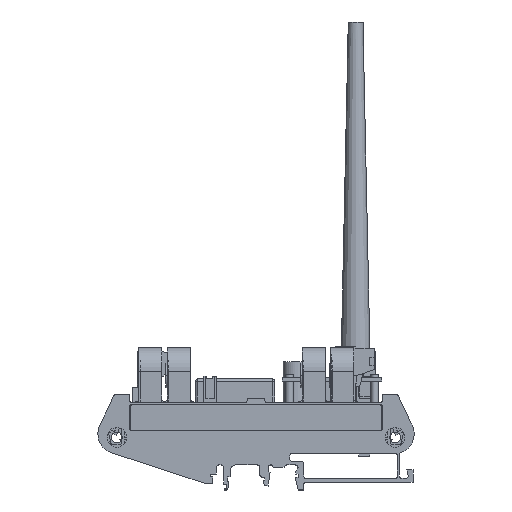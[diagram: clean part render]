
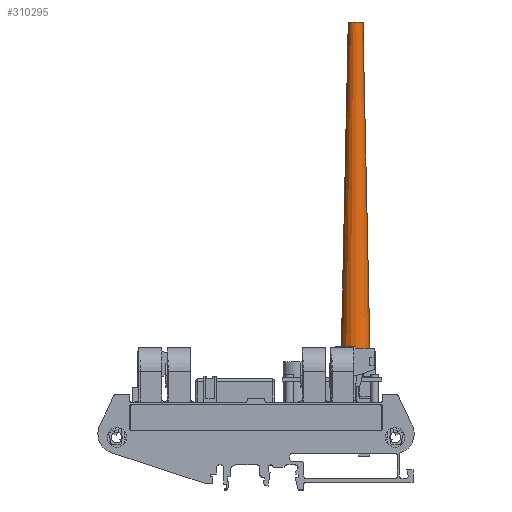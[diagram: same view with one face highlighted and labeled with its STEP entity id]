
A CAD part, left-side view. The second image highlights one B-rep face of the part: STEP entity #310295.
In plain terms, the highlighted conical face has half-angle 1.236 degrees and reference radius 6 mm.
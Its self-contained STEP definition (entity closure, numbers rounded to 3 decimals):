
#310295 = ADVANCED_FACE('',(#310296),#310309,.T.);
#310296 = FACE_BOUND('',#310297,.T.);
#310297 = EDGE_LOOP('',(#310298,#310332,#310355,#310382));
#310298 = ORIENTED_EDGE('',*,*,#310299,.F.);
#310299 = EDGE_CURVE('',#310300,#310300,#310302,.T.);
#310300 = VERTEX_POINT('',#310301);
#310301 = CARTESIAN_POINT('',(175.6,13.5,156.5));
#310302 = SURFACE_CURVE('',#310303,(#310308,#310320),.PCURVE_S1.);
#310303 = CIRCLE('',#310304,3.);
#310304 = AXIS2_PLACEMENT_3D('',#310305,#310306,#310307);
#310305 = CARTESIAN_POINT('',(172.6,13.5,156.5));
#310306 = DIRECTION('',(0.,0.,1.));
#310307 = DIRECTION('',(1.,0.,-0.));
#310308 = PCURVE('',#310309,#310314);
#310309 = CONICAL_SURFACE('',#310310,6.,0.022);
#310310 = AXIS2_PLACEMENT_3D('',#310311,#310312,#310313);
#310311 = CARTESIAN_POINT('',(172.6,13.5,17.5));
#310312 = DIRECTION('',(-0.,-0.,-1.));
#310313 = DIRECTION('',(1.,0.,0.));
#310314 = DEFINITIONAL_REPRESENTATION('',(#310315),#310319);
#310315 = LINE('',#310316,#310317);
#310316 = CARTESIAN_POINT('',(6.283,-139.));
#310317 = VECTOR('',#310318,1.);
#310318 = DIRECTION('',(-1.,0.));
#310319 = ( GEOMETRIC_REPRESENTATION_CONTEXT(2) 
PARAMETRIC_REPRESENTATION_CONTEXT() REPRESENTATION_CONTEXT('2D SPACE',''
  ) );
#310320 = PCURVE('',#310321,#310326);
#310321 = PLANE('',#310322);
#310322 = AXIS2_PLACEMENT_3D('',#310323,#310324,#310325);
#310323 = CARTESIAN_POINT('',(172.6,13.5,156.5));
#310324 = DIRECTION('',(0.,0.,1.));
#310325 = DIRECTION('',(1.,0.,-0.));
#310326 = DEFINITIONAL_REPRESENTATION('',(#310327),#310331);
#310327 = CIRCLE('',#310328,3.);
#310328 = AXIS2_PLACEMENT_2D('',#310329,#310330);
#310329 = CARTESIAN_POINT('',(0.,0.));
#310330 = DIRECTION('',(1.,0.));
#310331 = ( GEOMETRIC_REPRESENTATION_CONTEXT(2) 
PARAMETRIC_REPRESENTATION_CONTEXT() REPRESENTATION_CONTEXT('2D SPACE',''
  ) );
#310332 = ORIENTED_EDGE('',*,*,#310333,.F.);
#310333 = EDGE_CURVE('',#310334,#310300,#310336,.T.);
#310334 = VERTEX_POINT('',#310335);
#310335 = CARTESIAN_POINT('',(178.6,13.5,17.5));
#310336 = SEAM_CURVE('',#310337,(#310341,#310348),.PCURVE_S1.);
#310337 = LINE('',#310338,#310339);
#310338 = CARTESIAN_POINT('',(178.6,13.5,17.5));
#310339 = VECTOR('',#310340,1.);
#310340 = DIRECTION('',(-0.022,0.,1.));
#310341 = PCURVE('',#310309,#310342);
#310342 = DEFINITIONAL_REPRESENTATION('',(#310343),#310347);
#310343 = LINE('',#310344,#310345);
#310344 = CARTESIAN_POINT('',(6.283,0.));
#310345 = VECTOR('',#310346,1.);
#310346 = DIRECTION('',(-0.,-1.));
#310347 = ( GEOMETRIC_REPRESENTATION_CONTEXT(2) 
PARAMETRIC_REPRESENTATION_CONTEXT() REPRESENTATION_CONTEXT('2D SPACE',''
  ) );
#310348 = PCURVE('',#310309,#310349);
#310349 = DEFINITIONAL_REPRESENTATION('',(#310350),#310354);
#310350 = LINE('',#310351,#310352);
#310351 = CARTESIAN_POINT('',(0.,0.));
#310352 = VECTOR('',#310353,1.);
#310353 = DIRECTION('',(-0.,-1.));
#310354 = ( GEOMETRIC_REPRESENTATION_CONTEXT(2) 
PARAMETRIC_REPRESENTATION_CONTEXT() REPRESENTATION_CONTEXT('2D SPACE',''
  ) );
#310355 = ORIENTED_EDGE('',*,*,#310356,.T.);
#310356 = EDGE_CURVE('',#310334,#310334,#310357,.T.);
#310357 = SURFACE_CURVE('',#310358,(#310363,#310370),.PCURVE_S1.);
#310358 = CIRCLE('',#310359,6.);
#310359 = AXIS2_PLACEMENT_3D('',#310360,#310361,#310362);
#310360 = CARTESIAN_POINT('',(172.6,13.5,17.5));
#310361 = DIRECTION('',(0.,0.,1.));
#310362 = DIRECTION('',(1.,0.,-0.));
#310363 = PCURVE('',#310309,#310364);
#310364 = DEFINITIONAL_REPRESENTATION('',(#310365),#310369);
#310365 = LINE('',#310366,#310367);
#310366 = CARTESIAN_POINT('',(6.283,0.));
#310367 = VECTOR('',#310368,1.);
#310368 = DIRECTION('',(-1.,0.));
#310369 = ( GEOMETRIC_REPRESENTATION_CONTEXT(2) 
PARAMETRIC_REPRESENTATION_CONTEXT() REPRESENTATION_CONTEXT('2D SPACE',''
  ) );
#310370 = PCURVE('',#310371,#310376);
#310371 = PLANE('',#310372);
#310372 = AXIS2_PLACEMENT_3D('',#310373,#310374,#310375);
#310373 = CARTESIAN_POINT('',(172.6,13.5,17.5));
#310374 = DIRECTION('',(0.,0.,1.));
#310375 = DIRECTION('',(1.,0.,-0.));
#310376 = DEFINITIONAL_REPRESENTATION('',(#310377),#310381);
#310377 = CIRCLE('',#310378,6.);
#310378 = AXIS2_PLACEMENT_2D('',#310379,#310380);
#310379 = CARTESIAN_POINT('',(0.,0.));
#310380 = DIRECTION('',(1.,0.));
#310381 = ( GEOMETRIC_REPRESENTATION_CONTEXT(2) 
PARAMETRIC_REPRESENTATION_CONTEXT() REPRESENTATION_CONTEXT('2D SPACE',''
  ) );
#310382 = ORIENTED_EDGE('',*,*,#310333,.T.);
